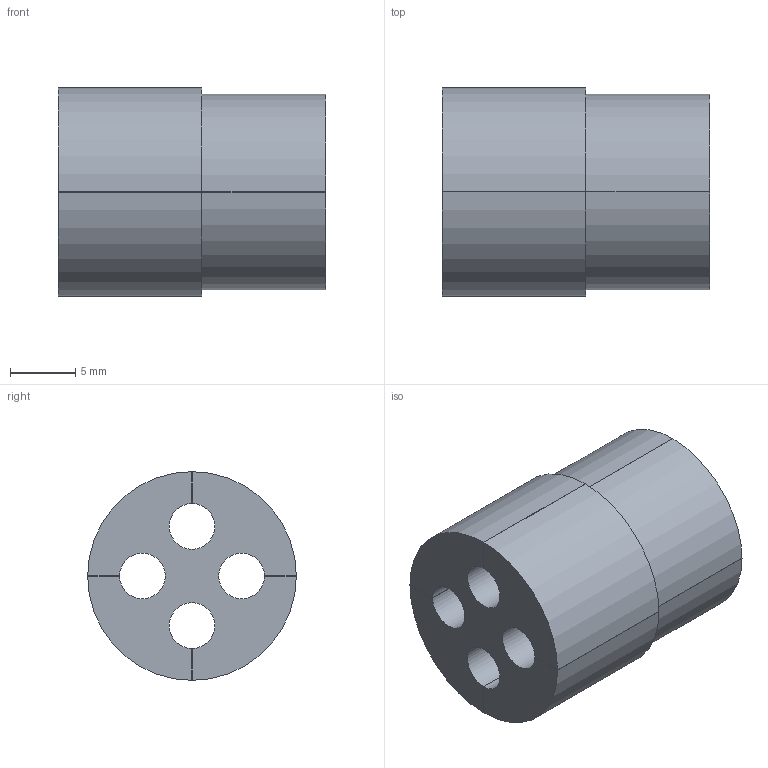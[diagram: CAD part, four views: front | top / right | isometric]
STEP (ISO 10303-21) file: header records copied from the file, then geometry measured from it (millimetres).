
FILE_DESCRIPTION(('Creo Elements/Direct Modeling STEP Export'),'2;1');
FILE_NAME('H11-0008-CL907-00_G13-334RS.stp','2023-06-09T10:01:34',(''),(''),'Creo Elements/Direct Modeling STEP processor for AP214 (Solid Model)','Creo Elements/Direct Modeling 20.3B 05-Dec-2020 (C) Parametric Technology GmbH','');
FILE_SCHEMA(('AUTOMOTIVE_DESIGN { 1 0 10303 214 1 1 1 1 }'));
Length unit declared in the file: millimetre
Products named in the file (2): G13-334RS
Assembly tree (1 placements, depth 2):
  G13-334RS
    G13-334RS
Bounding box: 20.5 x 16 x 16 mm (x, y, z)
Volume: 3099.7 mm3; surface area: 2589.4 mm2
Topology: 1 solids, 1 shells, 26 faces, 72 edges, 48 vertices
Faces by surface type: plane 14, cylinder 12
Entity records: 870 total; most frequent: DIRECTION 146, CARTESIAN_POINT 145, ORIENTED_EDGE 144, EDGE_CURVE 72, AXIS2_PLACEMENT_3D 49, VECTOR 48, LINE 48, VERTEX_POINT 48
